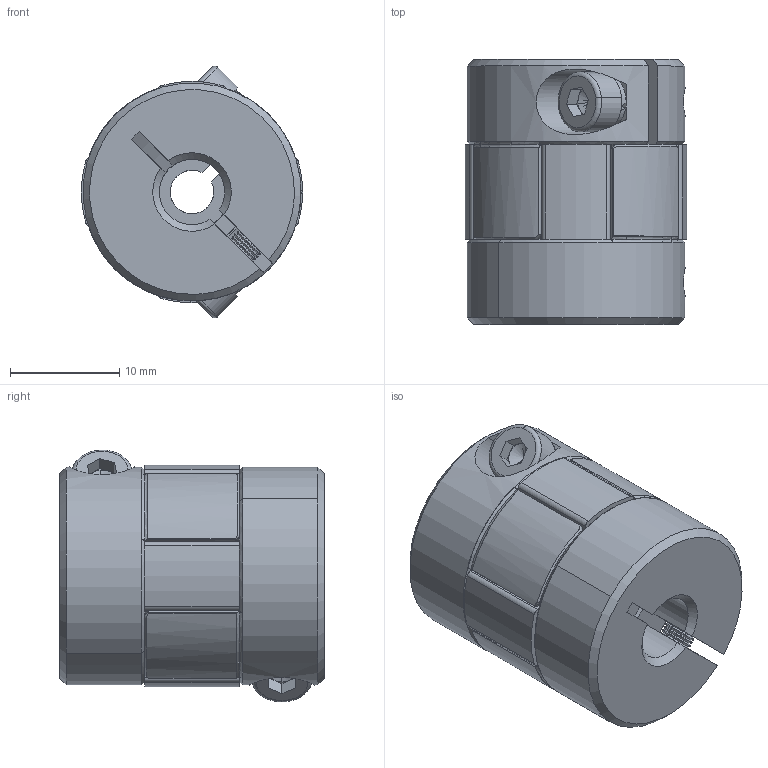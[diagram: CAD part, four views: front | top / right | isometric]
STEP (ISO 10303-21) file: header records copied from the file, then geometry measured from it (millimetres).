
FILE_DESCRIPTION (( 'STEP AP203' ), '1' );
FILE_NAME ('LF-B-D20L25-4-6.STEP', '2021-10-20T01:08:58', ( '' ), ( '' ), 'SwSTEP 2.0', 'SolidWorks 2018', '' );
FILE_SCHEMA (( 'CONFIG_CONTROL_DESIGN' ));
Length unit declared in the file: millimetre
Products named in the file (1): LF-B-D20L25-4-6
Bounding box: 20.31 x 24.3 x 23.09 mm (x, y, z)
Volume: 6705 mm3; surface area: 3579.4 mm2
Topology: 1 solids, 1 shells, 431 faces, 1076 edges, 637 vertices
Faces by surface type: cylinder 167, cone 158, plane 94, torus 12
Entity records: 13178 total; most frequent: CARTESIAN_POINT 2731, DIRECTION 2331, ORIENTED_EDGE 2144, EDGE_CURVE 1072, AXIS2_PLACEMENT_3D 959, VERTEX_POINT 637, CIRCLE 527, EDGE_LOOP 447
